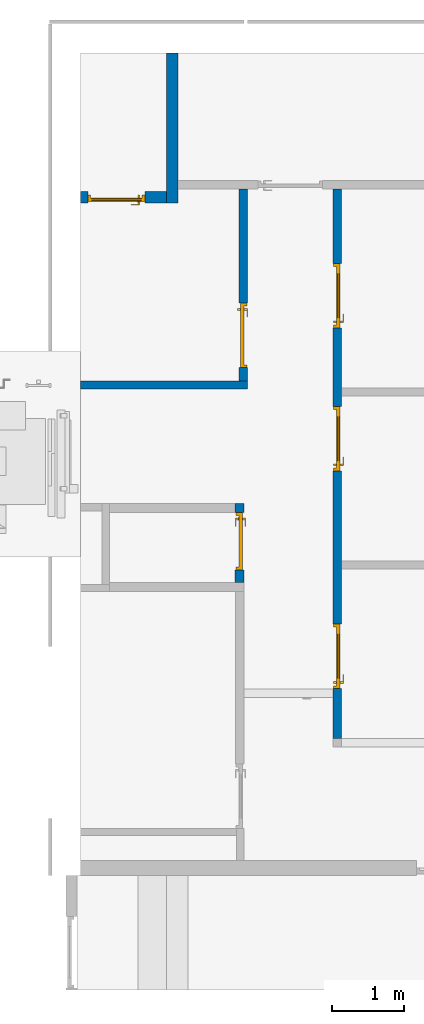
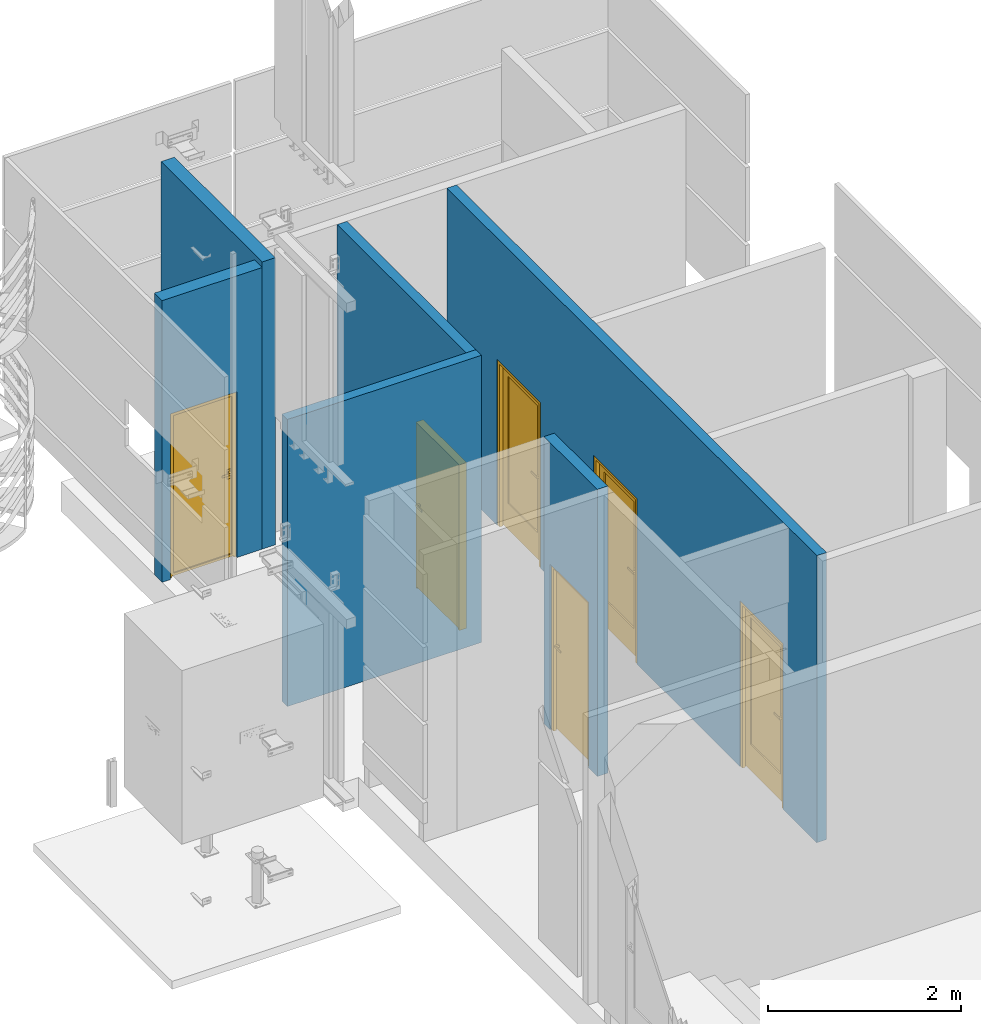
# One storey, part 2 of 15: 6 doors, 6 walls, 8 openings.
"""IFC2X3 building model written with IfcOpenShell, lengths in millimetres."""

from ifc_helpers import new_model, entity, si_unit, converted_unit, derived_unit, direction, frame, frame_2d, origin, place, context, subcontext, project, spatial, rectangle, extrude, faceted_brep, source, transform, mapped, material, material_list, layer, layer_set, layer_usage, type_object, type_shapes, element, fill, save


model = new_model("IFC2X3")

# Units and contexts
model_context = context("Model", 3, precision=0.01, world=origin(), true_north=direction((6.12303176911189e-17, 1.0)))
body_context = subcontext(model_context, "Body", "Model", "MODEL_VIEW")
ifc_project = project(units=[si_unit("LENGTHUNIT", "METRE", prefix="MILLI"), si_unit("AREAUNIT", "SQUARE_METRE"), si_unit("VOLUMEUNIT", "CUBIC_METRE"), converted_unit("PLANEANGLEUNIT", "DEGREE", entity("IfcRatioMeasure", 0.0174532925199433), si_unit("PLANEANGLEUNIT", "RADIAN"), dimensions=[0, 0, 0, 0, 0, 0, 0]), si_unit("MASSUNIT", "GRAM", prefix="KILO"), derived_unit("MASSDENSITYUNIT", [(si_unit("MASSUNIT", "GRAM", prefix="KILO"), 1), (si_unit("LENGTHUNIT", "METRE"), -3)]), si_unit("TIMEUNIT", "SECOND"), si_unit("FREQUENCYUNIT", "HERTZ"), si_unit("THERMODYNAMICTEMPERATUREUNIT", "DEGREE_CELSIUS"), derived_unit("THERMALTRANSMITTANCEUNIT", [(si_unit("MASSUNIT", "GRAM", prefix="KILO"), 1), (si_unit("THERMODYNAMICTEMPERATUREUNIT", "KELVIN"), -1), (si_unit("TIMEUNIT", "SECOND"), -3)]), derived_unit("VOLUMETRICFLOWRATEUNIT", [(si_unit("LENGTHUNIT", "METRE"), 3), (si_unit("TIMEUNIT", "SECOND"), -1)]), si_unit("ELECTRICCURRENTUNIT", "AMPERE"), si_unit("ELECTRICVOLTAGEUNIT", "VOLT"), si_unit("POWERUNIT", "WATT"), si_unit("FORCEUNIT", "NEWTON", prefix="KILO"), si_unit("ILLUMINANCEUNIT", "LUX"), si_unit("LUMINOUSFLUXUNIT", "LUMEN"), si_unit("LUMINOUSINTENSITYUNIT", "CANDELA"), derived_unit("USERDEFINED", [(si_unit("MASSUNIT", "GRAM", prefix="KILO"), -1), (si_unit("LENGTHUNIT", "METRE"), -2), (si_unit("TIMEUNIT", "SECOND"), 3), (si_unit("LUMINOUSFLUXUNIT", "LUMEN"), 1)]), derived_unit("LINEARVELOCITYUNIT", [(si_unit("LENGTHUNIT", "METRE"), 1), (si_unit("TIMEUNIT", "SECOND"), -1)]), si_unit("PRESSUREUNIT", "PASCAL"), derived_unit("USERDEFINED", [(si_unit("LENGTHUNIT", "METRE"), -2), (si_unit("MASSUNIT", "GRAM", prefix="KILO"), 1), (si_unit("TIMEUNIT", "SECOND"), -2)])], contexts=[model_context])

# Site, building, storey
site_placement = place(None, frame((-151.875543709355, 2715.0, 0.0)))
site = spatial("IfcSite", under=ifc_project, at=site_placement, Name="Surface", CompositionType="ELEMENT")
building_placement = place(site_placement, origin())
building = spatial("IfcBuilding", under=site, at=building_placement, CompositionType="ELEMENT")
storey_placement = place(building_placement, frame((0.0, 0.0, -135.0)))
storey = spatial("IfcBuildingStorey", under=building, at=storey_placement, Name="uus 1 korrus", CompositionType="ELEMENT", Elevation=-134.99999999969)

# Wall, openings, doors
ifc_material_1 = material(Name="__Kips GN13_tava")
ifc_layer_1 = layer(ifc_material_1, 12.5)
ifc_layer_2 = layer(ifc_material_1, 12.5)
ifc_material_2 = material(Name="__Soojustus EPS")
ifc_layer_3 = layer(ifc_material_2, 66.0)
ifc_layer_4 = layer(ifc_material_1, 12.5)
ifc_layer_5 = layer(ifc_material_1, 12.5)
ifc_layer_set_1 = layer_set([ifc_layer_1, ifc_layer_2, ifc_layer_3, ifc_layer_4, ifc_layer_5], Name="Basic Wall:SS-3_Kipssein tava ruumide vahel")
ifc_layer_usage_1 = layer_usage(ifc_layer_set_1, "AXIS2", "NEGATIVE", 58.0)
wall_type_1 = type_object("IfcWallType", Name="Basic Wall:SS-3_Kipssein tava ruumide vahel", PredefinedType="STANDARD", material=ifc_layer_set_1)
wall_1_placement = place(storey_placement, frame((35588.8324752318, 16726.0448732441, 0.0), z_axis=(0.0, 0.0, 1.0), x_axis=(0.0, 1.0, 0.0)))
wall_1 = element("IfcWallStandardCase", 1, at=wall_1_placement, inside=storey, type_object=wall_type_1, material=ifc_layer_usage_1, Name="Basic Wall:SS-3_Kipssein tava ruumide vahel", ObjectType="Basic Wall:SS-3_Kipssein tava ruumide vahel", context=body_context, shape_type="SweptSolid", body=[
    extrude(rectangle(XDim=7683.94136096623, YDim=116.0, at=frame_2d((3841.97068048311, 1.61648472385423e-12), x_axis=(-1.0, 0.0))), origin(), (0.0, 0.0, 1.0), 3640.0),
])
opening_1_placement = place(wall_1_placement, origin())
element("IfcOpeningElement", 2, at=opening_1_placement, cuts=wall_1, Name="Basic Wall:SS-3_Kipssein tava ruumide vahel", ObjectType="Opening", context=body_context, shape_type="SweptSolid", body=[
    extrude(rectangle(XDim=2099.99999999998, YDim=116.0, at=frame_2d((0.0, 1.13686837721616e-13), x_axis=(0.0, 1.0))), frame((634.573009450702, 58.0, 1050.0), z_axis=(0.0, 1.0, 0.0), x_axis=(1.0, 0.0, 0.0)), (0.0, 0.0, 1.0), 1250.0),
])
opening_2_placement = place(wall_1_placement, origin())
element("IfcOpeningElement", 3, at=opening_2_placement, cuts=wall_1, Name="Basic Wall:SS-3_Kipssein tava ruumide vahel", ObjectType="Opening", context=body_context, shape_type="SweptSolid", body=[
    extrude(rectangle(XDim=599.999999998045, YDim=116.0, at=frame_2d((0.0, -1.4210854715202e-13), x_axis=(0.0, 1.0))), frame((634.573009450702, 58.0, 2400.0), z_axis=(0.0, 1.0, 0.0), x_axis=(1.0, 0.0, 0.0)), (0.0, 0.0, 1.0), 1250.0),
])
opening_3_placement = place(wall_1_placement, frame((4638.36583075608, 58.0, 0.0)))
opening_3 = element("IfcOpeningElement", 4, at=opening_3_placement, cuts=wall_1, Name="Ühepoolsed:SU-02:1", ObjectType="Opening", context=body_context, shape_type="SweptSolid", body=[
    extrude(rectangle(XDim=2099.99999999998, YDim=900.0, at=frame_2d((1049.99999999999, 450.000000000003), x_axis=(1.0, 0.0))), frame((0.0, 0.0, 0.0), z_axis=(0.0, -1.0, 0.0), x_axis=(0.0, 0.0, 1.0)), (0.0, 0.0, 1.0), 116.0),
])
opening_4_placement = place(wall_1_placement, frame((6638.36583075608, 58.0, 0.0)))
opening_4 = element("IfcOpeningElement", 5, at=opening_4_placement, cuts=wall_1, Name="Ühepoolsed:SU-02:1", ObjectType="Opening", context=body_context, shape_type="SweptSolid", body=[
    extrude(rectangle(XDim=2099.99999999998, YDim=900.0, at=frame_2d((1049.99999999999, 450.0), x_axis=(1.0, 0.0))), frame((0.0, 0.0, 0.0), z_axis=(0.0, -1.0, 0.0), x_axis=(0.0, 0.0, 1.0)), (0.0, 0.0, 1.0), 116.0),
])
opening_5_placement = place(wall_1_placement, frame((1597.93478386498, 58.0, 0.0)))
opening_5 = element("IfcOpeningElement", 6, at=opening_5_placement, cuts=wall_1, Name="Ühepoolsed:SU-02:1", ObjectType="Opening", context=body_context, shape_type="SweptSolid", body=[
    extrude(rectangle(XDim=2099.99999999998, YDim=900.0, at=frame_2d((1049.99999999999, 450.000000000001), x_axis=(1.0, 0.0))), frame((0.0, 0.0, 0.0), z_axis=(0.0, -1.0, 0.0), x_axis=(0.0, 0.0, 1.0)), (0.0, 0.0, 1.0), 116.0),
])
ifc_material_3 = material(Name="_Alumiiniumprofiil - must")
ifc_material_4 = material(Name="__Uks_hele tamm")
ifc_material_5 = material(Name="Glass")
ifc_material_list_1 = material_list([ifc_material_3, ifc_material_4, ifc_material_5])
ifc_material_list_2 = material_list([ifc_material_3, ifc_material_4, ifc_material_5])
door_style_1 = type_object("IfcDoorStyle", Name="SU-02", ConstructionType="NOTDEFINED", OperationType="FOLDING_TO_LEFT", ParameterTakesPrecedence=False, Sizeable=False, material=ifc_material_list_2)
shared_shape_1 = source(origin(), body_context, "Body", "Brep", [
    faceted_brep([(800.0, 6.0, 1112.5), (705.0, 6.0, 1112.5), (705.0, 1.0, 1112.5), (825.0, 1.0, 1112.5), (825.0, 44.0, 1112.5), (800.0, 44.0, 1112.5), (800.0, 6.0, 1087.5), (800.0, 44.0, 1087.5), (825.0, 44.0, 1087.5), (825.0, 1.0, 1087.5), (705.0, 1.0, 1087.5), (705.0, 6.0, 1087.5)], [[[0, 1, 2, 3, 4, 5]], [[6, 7, 8, 9, 10, 11]], [[5, 7, 6, 0]], [[4, 8, 7, 5]], [[3, 9, 8, 4]], [[2, 10, 9, 3]], [[1, 11, 10, 2]], [[0, 6, 11, 1]]]),
    faceted_brep([(787.500000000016, 44.0, 1137.5), (837.500000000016, 44.0, 1137.5), (837.500000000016, 46.0, 1137.5), (787.500000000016, 46.0, 1137.5), (787.500000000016, 44.0, 1017.5), (787.500000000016, 46.0, 1017.5), (837.500000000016, 46.0, 1017.5), (837.500000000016, 44.0, 1017.5)], [[[0, 1, 2, 3]], [[4, 5, 6, 7]], [[3, 5, 4, 0]], [[2, 6, 5, 3]], [[1, 7, 6, 2]], [[0, 4, 7, 1]]]),
    faceted_brep([(800.0, 136.0, 1112.5), (800.0, 98.0, 1112.5), (825.0, 98.0, 1112.5), (825.0, 141.0, 1112.5), (705.0, 141.0, 1112.5), (705.0, 136.0, 1112.5), (800.0, 136.0, 1087.5), (705.0, 136.0, 1087.5), (705.0, 141.0, 1087.5), (825.0, 141.0, 1087.5), (825.0, 98.0, 1087.5), (800.0, 98.0, 1087.5)], [[[0, 1, 2, 3, 4, 5]], [[6, 7, 8, 9, 10, 11]], [[1, 0, 6, 11]], [[2, 1, 11, 10]], [[3, 2, 10, 9]], [[4, 3, 9, 8]], [[5, 4, 8, 7]], [[0, 5, 7, 6]]]),
    faceted_brep([(787.500000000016, 98.0, 1137.5), (787.500000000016, 96.0, 1137.5), (837.500000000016, 96.0, 1137.5), (837.500000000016, 98.0, 1137.5), (787.500000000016, 98.0, 1017.5), (837.500000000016, 98.0, 1017.5), (837.500000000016, 96.0, 1017.5), (787.500000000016, 96.0, 1017.5)], [[[0, 1, 2, 3]], [[4, 5, 6, 7]], [[1, 0, 4, 7]], [[2, 1, 7, 6]], [[3, 2, 6, 5]], [[0, 3, 5, 4]]]),
    faceted_brep([(0.0, 6.0, 0.0), (0.0, 96.0, 0.0), (25.0, 96.0, 0.0), (25.0, 46.0, 0.0), (40.0, 46.0, 0.0), (40.0, 6.0, 0.0), (40.0, 6.0, 2060.0), (860.0, 6.0, 2060.0), (860.0, 6.0, 0.0), (900.0, 6.0, 0.0), (900.0, 6.0, 2100.0), (0.0, 6.0, 2100.0), (40.0, 46.0, 2060.0), (25.0, 46.0, 2075.0), (875.0, 46.0, 2075.0), (875.0, 46.0, 0.0), (860.0, 46.0, 0.0), (860.0, 46.0, 2060.0), (25.0, 96.0, 2075.0), (0.0, 96.0, 2100.0), (900.0, 96.0, 2100.0), (900.0, 96.0, 0.0), (875.0, 96.0, 0.0), (875.0, 96.0, 2075.0)], [[[0, 1, 2, 3, 4, 5]], [[5, 6, 7, 8, 9, 10, 11, 0]], [[4, 12, 6, 5]], [[3, 13, 14, 15, 16, 17, 12, 4]], [[2, 18, 13, 3]], [[1, 19, 20, 21, 22, 23, 18, 2]], [[0, 11, 19, 1]], [[9, 21, 20, 10]], [[8, 16, 15, 22, 21, 9]], [[7, 17, 16, 8]], [[14, 23, 22, 15]], [[6, 12, 17, 7]], [[13, 18, 23, 14]], [[10, 20, 19, 11]]]),
    faceted_brep([(140.0, 61.0, 350.0), (760.0, 61.0, 350.0), (760.0, 61.0, 1960.0), (140.0, 61.0, 1960.0), (140.0, 81.0, 350.0), (140.0, 81.0, 1960.0), (760.0, 81.0, 1960.0), (760.0, 81.0, 350.0)], [[[0, 1, 2, 3]], [[4, 5, 6, 7]], [[3, 5, 4, 0]], [[2, 6, 5, 3]], [[1, 7, 6, 2]], [[0, 4, 7, 1]]]),
    faceted_brep([(25.0, 46.0, 20.0), (875.0, 46.0, 20.0), (875.0, 46.0, 2075.0), (25.0, 46.0, 2075.0), (760.0, 46.0, 350.0), (140.0, 46.0, 350.0), (140.0, 46.0, 1960.0), (760.0, 46.0, 1960.0), (25.0, 96.0, 20.0), (25.0, 96.0, 2075.0), (875.0, 96.0, 2075.0), (875.0, 96.0, 20.0), (760.0, 96.0, 1960.0), (140.0, 96.0, 1960.0), (140.0, 96.0, 350.0), (760.0, 96.0, 350.0)], [[[0, 1, 2, 3], [4, 5, 6, 7]], [[8, 9, 10, 11], [12, 13, 14, 15]], [[3, 9, 8, 0]], [[2, 10, 9, 3]], [[1, 11, 10, 2]], [[0, 8, 11, 1]], [[12, 15, 4, 7]], [[15, 14, 5, 4]], [[14, 13, 6, 5]], [[7, 6, 13, 12]]]),
])
type_shapes(door_style_1, [shared_shape_1])
door_1_placement = place(opening_3_placement, frame((0.0, 0.0, 0.0), z_axis=(0.0, 0.0, 1.0), x_axis=(-1.0, 0.0, 0.0)))
door_1 = element("IfcDoor", 7, at=door_1_placement, inside=storey, type_object=door_style_1, material=ifc_material_list_1, Name="Ühepoolsed:SU-02", ObjectType="SU-02", OverallHeight=2099.99999999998, OverallWidth=900.000000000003, context=body_context, shape_type="MappedRepresentation", body=[
    mapped(shared_shape_1, transform((0.0, 0.0, 0.0), scale=1.0)),
])
fill(opening_3, door_1)
ifc_material_list_3 = material_list([ifc_material_3, ifc_material_4, ifc_material_5])
door_2_placement = place(opening_4_placement, frame((0.0, 0.0, 0.0), z_axis=(0.0, 0.0, 1.0), x_axis=(-1.0, 0.0, 0.0)))
door_2 = element("IfcDoor", 8, at=door_2_placement, inside=storey, type_object=door_style_1, material=ifc_material_list_3, Name="Ühepoolsed:SU-02", ObjectType="SU-02", OverallHeight=2099.99999999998, OverallWidth=899.999999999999, context=body_context, shape_type="MappedRepresentation", body=[
    mapped(shared_shape_1, transform((0.0, 0.0, 0.0), scale=1.0)),
])
fill(opening_4, door_2)
ifc_material_list_4 = material_list([ifc_material_3, ifc_material_4, ifc_material_5])
door_3_placement = place(opening_5_placement, frame((0.0, 0.0, 0.0), z_axis=(0.0, 0.0, 1.0), x_axis=(-1.0, 0.0, 0.0)))
door_3 = element("IfcDoor", 9, at=door_3_placement, inside=storey, type_object=door_style_1, material=ifc_material_list_4, Name="Ühepoolsed:SU-02", ObjectType="SU-02", OverallHeight=2099.99999999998, OverallWidth=900.000000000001, context=body_context, shape_type="MappedRepresentation", body=[
    mapped(shared_shape_1, transform((0.0, 0.0, 0.0), scale=1.0)),
])
fill(opening_5, door_3)

# Wall
ifc_layer_usage_2 = layer_usage(ifc_layer_set_1, "AXIS2", "NEGATIVE", 58.0)
wall_2_placement = place(storey_placement, frame((34331.0797239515, 21667.9258834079, 0.0), z_axis=(0.0, 0.0, 1.0), x_axis=(-1.0, 0.0, 0.0)))
element("IfcWallStandardCase", 10, at=wall_2_placement, inside=storey, type_object=wall_type_1, material=ifc_layer_usage_2, Name="Basic Wall:SS-3_Kipssein tava ruumide vahel", ObjectType="Basic Wall:SS-3_Kipssein tava ruumide vahel", context=body_context, shape_type="SweptSolid", body=[
    extrude(rectangle(XDim=2329.46345575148, YDim=116.0, at=frame_2d((1164.73172787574, 1.36779476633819e-12), x_axis=(-1.0, 0.0))), origin(), (0.0, 0.0, 1.0), 3640.0),
])

# Wall, opening, door
ifc_layer_usage_3 = layer_usage(ifc_layer_set_1, "AXIS2", "NEGATIVE", 58.0)
wall_3_placement = place(storey_placement, frame((34273.0797239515, 21725.9258834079, 0.0), z_axis=(0.0, 0.0, 1.0), x_axis=(0.0, 1.0, 0.0)))
wall_3 = element("IfcWallStandardCase", 11, at=wall_3_placement, inside=storey, type_object=wall_type_1, material=ifc_layer_usage_3, Name="Basic Wall:SS-3_Kipssein tava ruumide vahel", ObjectType="Basic Wall:SS-3_Kipssein tava ruumide vahel", context=body_context, shape_type="SweptSolid", body=[
    extrude(rectangle(XDim=2684.06035080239, YDim=116.0, at=frame_2d((1342.03017540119, -8.88178419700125e-14), x_axis=(-1.0, 0.0))), origin(), (0.0, 0.0, 1.0), 3640.0),
])
opening_6_placement = place(wall_3_placement, frame((184.307162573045, -58.0, 0.0)))
opening_6 = element("IfcOpeningElement", 12, at=opening_6_placement, cuts=wall_3, Name="Ühepoolsed:SU-06:1", ObjectType="Opening", context=body_context, shape_type="SweptSolid", body=[
    extrude(rectangle(XDim=2099.99999999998, YDim=900.0, at=frame_2d((1049.99999999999, 450.000000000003), x_axis=(1.0, 0.0))), frame((0.0, 0.0, 0.0), z_axis=(0.0, 1.0, 0.0), x_axis=(0.0, 0.0, 1.0)), (0.0, 0.0, 1.0), 116.0),
])
ifc_material_list_5 = material_list([ifc_material_3, ifc_material_4])
ifc_material_list_6 = material_list([ifc_material_3, ifc_material_4])
door_style_2 = type_object("IfcDoorStyle", Name="SU-06", ConstructionType="NOTDEFINED", OperationType="FOLDING_TO_LEFT", ParameterTakesPrecedence=False, Sizeable=False, material=ifc_material_list_6)
shared_shape_2 = source(origin(), body_context, "Body", "Brep", [
    faceted_brep([(800.0, 6.0, 1112.5), (705.0, 6.0, 1112.5), (705.0, 1.0, 1112.5), (825.0, 1.0, 1112.5), (825.0, 44.0, 1112.5), (800.0, 44.0, 1112.5), (800.0, 6.0, 1087.5), (800.0, 44.0, 1087.5), (825.0, 44.0, 1087.5), (825.0, 1.0, 1087.5), (705.0, 1.0, 1087.5), (705.0, 6.0, 1087.5)], [[[0, 1, 2, 3, 4, 5]], [[6, 7, 8, 9, 10, 11]], [[5, 7, 6, 0]], [[4, 8, 7, 5]], [[3, 9, 8, 4]], [[2, 10, 9, 3]], [[1, 11, 10, 2]], [[0, 6, 11, 1]]]),
    faceted_brep([(787.500000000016, 44.0, 1137.5), (837.500000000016, 44.0, 1137.5), (837.500000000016, 46.0, 1137.5), (787.500000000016, 46.0, 1137.5), (787.500000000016, 44.0, 1017.5), (787.500000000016, 46.0, 1017.5), (837.500000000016, 46.0, 1017.5), (837.500000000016, 44.0, 1017.5)], [[[0, 1, 2, 3]], [[4, 5, 6, 7]], [[3, 5, 4, 0]], [[2, 6, 5, 3]], [[1, 7, 6, 2]], [[0, 4, 7, 1]]]),
    faceted_brep([(800.0, 136.0, 1112.5), (800.0, 98.0, 1112.5), (825.0, 98.0, 1112.5), (825.0, 141.0, 1112.5), (705.0, 141.0, 1112.5), (705.0, 136.0, 1112.5), (800.0, 136.0, 1087.5), (705.0, 136.0, 1087.5), (705.0, 141.0, 1087.5), (825.0, 141.0, 1087.5), (825.0, 98.0, 1087.5), (800.0, 98.0, 1087.5)], [[[0, 1, 2, 3, 4, 5]], [[6, 7, 8, 9, 10, 11]], [[1, 0, 6, 11]], [[2, 1, 11, 10]], [[3, 2, 10, 9]], [[4, 3, 9, 8]], [[5, 4, 8, 7]], [[0, 5, 7, 6]]]),
    faceted_brep([(787.500000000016, 98.0, 1137.5), (787.500000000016, 96.0, 1137.5), (837.500000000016, 96.0, 1137.5), (837.500000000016, 98.0, 1137.5), (787.500000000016, 98.0, 1017.5), (837.500000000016, 98.0, 1017.5), (837.500000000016, 96.0, 1017.5), (787.500000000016, 96.0, 1017.5)], [[[0, 1, 2, 3]], [[4, 5, 6, 7]], [[1, 0, 4, 7]], [[2, 1, 7, 6]], [[3, 2, 6, 5]], [[0, 3, 5, 4]]]),
    faceted_brep([(0.0, 6.0, 0.0), (0.0, 96.0, 0.0), (25.0, 96.0, 0.0), (25.0, 46.0, 0.0), (40.0, 46.0, 0.0), (40.0, 6.0, 0.0), (40.0, 6.0, 2060.0), (860.0, 6.0, 2060.0), (860.0, 6.0, 0.0), (900.0, 6.0, 0.0), (900.0, 6.0, 2100.0), (0.0, 6.0, 2100.0), (40.0, 46.0, 2060.0), (25.0, 46.0, 2075.0), (875.0, 46.0, 2075.0), (875.0, 46.0, 0.0), (860.0, 46.0, 0.0), (860.0, 46.0, 2060.0), (25.0, 96.0, 2075.0), (0.0, 96.0, 2100.0), (900.0, 96.0, 2100.0), (900.0, 96.0, 0.0), (875.0, 96.0, 0.0), (875.0, 96.0, 2075.0)], [[[0, 1, 2, 3, 4, 5]], [[5, 6, 7, 8, 9, 10, 11, 0]], [[4, 12, 6, 5]], [[3, 13, 14, 15, 16, 17, 12, 4]], [[2, 18, 13, 3]], [[1, 19, 20, 21, 22, 23, 18, 2]], [[0, 11, 19, 1]], [[9, 21, 20, 10]], [[8, 16, 15, 22, 21, 9]], [[7, 17, 16, 8]], [[14, 23, 22, 15]], [[6, 12, 17, 7]], [[13, 18, 23, 14]], [[10, 20, 19, 11]]]),
    faceted_brep([(875.0, 46.0, 2075.0), (25.0, 46.0, 2075.0), (25.0, 46.0, 20.0), (875.0, 46.0, 20.0), (875.0, 96.0, 2075.0), (875.0, 96.0, 20.0), (25.0, 96.0, 20.0), (25.0, 96.0, 2075.0)], [[[0, 1, 2, 3]], [[4, 5, 6, 7]], [[3, 5, 4, 0]], [[2, 6, 5, 3]], [[1, 7, 6, 2]], [[0, 4, 7, 1]]]),
])
type_shapes(door_style_2, [shared_shape_2])
door_4_placement = place(opening_6_placement, origin())
door_4 = element("IfcDoor", 13, at=door_4_placement, inside=storey, type_object=door_style_2, material=ifc_material_list_5, Name="Ühepoolsed:SU-06", ObjectType="SU-06", OverallHeight=2099.99999999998, OverallWidth=900.000000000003, context=body_context, shape_type="MappedRepresentation", body=[
    mapped(shared_shape_2, transform((0.0, 0.0, 0.0), scale=1.0)),
])
fill(opening_6, door_4)

ifc_layer_6 = layer(ifc_material_1, 12.5)
ifc_layer_7 = layer(ifc_material_1, 12.5)
ifc_layer_8 = layer(ifc_material_2, 66.0)
ifc_material_6 = material(Name="__Kips GKB_niiskuskindel")
ifc_layer_9 = layer(ifc_material_6, 12.5)
ifc_layer_10 = layer(ifc_material_6, 12.5)
ifc_material_7 = material(Name="Keraamiline_plaat")
ifc_layer_11 = layer(ifc_material_7, 10.0)
ifc_layer_set_2 = layer_set([ifc_layer_6, ifc_layer_7, ifc_layer_8, ifc_layer_9, ifc_layer_10, ifc_layer_11], Name="Basic Wall:SS-4_Kipssein tava ja niiske ruumi vahel")
ifc_layer_usage_4 = layer_usage(ifc_layer_set_2, "AXIS2", "POSITIVE", -63.0)
wall_type_2 = type_object("IfcWallType", Name="Basic Wall:SS-4_Kipssein tava ja niiske ruumi vahel", PredefinedType="STANDARD", material=ifc_layer_set_2)
wall_4_placement = place(storey_placement, frame((34218.3085887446, 18903.9710030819, 0.0), z_axis=(0.0, 0.0, 1.0), x_axis=(0.0, 1.0, 0.0)))
wall_4 = element("IfcWallStandardCase", 14, at=wall_4_placement, inside=storey, type_object=wall_type_2, material=ifc_layer_usage_4, Name="Basic Wall:SS-4_Kipssein tava ja niiske ruumi vahel", ObjectType="Basic Wall:SS-4_Kipssein tava ja niiske ruumi vahel", context=body_context, shape_type="SweptSolid", body=[
    extrude(rectangle(XDim=1105.95488032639, YDim=125.999999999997, at=frame_2d((552.977440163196, -1.31095134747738e-12), x_axis=(-1.0, 0.0))), origin(), (0.0, 0.0, 1.0), 3640.0),
])
opening_7_placement = place(wall_4_placement, frame((979.954880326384, 63.0, 0.0)))
opening_7 = element("IfcOpeningElement", 15, at=opening_7_placement, cuts=wall_4, Name="Ühepoolsed:SU-05:1", ObjectType="Opening", context=body_context, shape_type="SweptSolid", body=[
    extrude(rectangle(XDim=2099.99999999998, YDim=800.0, at=frame_2d((1049.99999999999, 400.0), x_axis=(1.0, 0.0))), frame((0.0, 0.0, 0.0), z_axis=(0.0, -1.0, 0.0), x_axis=(0.0, 0.0, 1.0)), (0.0, 0.0, 1.0), 126.0),
])
ifc_material_list_7 = material_list([ifc_material_3, ifc_material_4])
ifc_material_list_8 = material_list([ifc_material_3, ifc_material_4])
door_style_3 = type_object("IfcDoorStyle", Name="SU-05", ConstructionType="NOTDEFINED", OperationType="FOLDING_TO_RIGHT", ParameterTakesPrecedence=False, Sizeable=False, material=ifc_material_list_8)
shared_shape_3 = source(origin(), body_context, "Body", "Brep", [
    faceted_brep([(100.0, 16.0, 1112.5), (100.0, 54.0, 1112.5), (75.0, 54.0, 1112.5), (75.0, 11.0, 1112.5), (195.0, 11.0, 1112.5), (195.0, 16.0, 1112.5), (100.0, 16.0, 1087.5), (195.0, 16.0, 1087.5), (195.0, 11.0, 1087.5), (75.0, 11.0, 1087.5), (75.0, 54.0, 1087.5), (100.0, 54.0, 1087.5)], [[[0, 1, 2, 3, 4, 5]], [[6, 7, 8, 9, 10, 11]], [[1, 0, 6, 11]], [[2, 1, 11, 10]], [[3, 2, 10, 9]], [[4, 3, 9, 8]], [[5, 4, 8, 7]], [[0, 5, 7, 6]]]),
    faceted_brep([(112.5, 54.0, 1137.5), (112.5, 56.0, 1137.5), (62.5000000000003, 56.0, 1137.5), (62.5000000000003, 54.0, 1137.5), (112.5, 54.0, 1017.5), (62.5000000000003, 54.0, 1017.5), (62.5000000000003, 56.0, 1017.5), (112.5, 56.0, 1017.5)], [[[0, 1, 2, 3]], [[4, 5, 6, 7]], [[1, 0, 4, 7]], [[2, 1, 7, 6]], [[3, 2, 6, 5]], [[0, 3, 5, 4]]]),
    faceted_brep([(100.0, 146.0, 1112.5), (195.0, 146.0, 1112.5), (195.0, 151.0, 1112.5), (75.0, 151.0, 1112.5), (75.0, 108.0, 1112.5), (100.0, 108.0, 1112.5), (100.0, 146.0, 1087.5), (100.0, 108.0, 1087.5), (75.0, 108.0, 1087.5), (75.0, 151.0, 1087.5), (195.0, 151.0, 1087.5), (195.0, 146.0, 1087.5)], [[[0, 1, 2, 3, 4, 5]], [[6, 7, 8, 9, 10, 11]], [[5, 7, 6, 0]], [[4, 8, 7, 5]], [[3, 9, 8, 4]], [[2, 10, 9, 3]], [[1, 11, 10, 2]], [[0, 6, 11, 1]]]),
    faceted_brep([(112.5, 108.0, 1137.5), (62.5000000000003, 108.0, 1137.5), (62.5000000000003, 106.0, 1137.5), (112.5, 106.0, 1137.5), (112.5, 108.0, 1017.5), (112.5, 106.0, 1017.5), (62.5000000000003, 106.0, 1017.5), (62.5000000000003, 108.0, 1017.5)], [[[0, 1, 2, 3]], [[4, 5, 6, 7]], [[3, 5, 4, 0]], [[2, 6, 5, 3]], [[1, 7, 6, 2]], [[0, 4, 7, 1]]]),
    faceted_brep([(800.0, 16.0, 0.0), (760.0, 16.0, 0.0), (760.0, 56.0, 0.0), (775.0, 56.0, 0.0), (775.0, 106.0, 0.0), (800.0, 106.0, 0.0), (800.0, 16.0, 2100.0), (0.0, 16.0, 2100.0), (0.0, 16.0, 0.0), (40.0, 16.0, 0.0), (40.0, 16.0, 2060.0), (760.0, 16.0, 2060.0), (760.0, 56.0, 2060.0), (40.0, 56.0, 2060.0), (40.0, 56.0, 0.0), (25.0, 56.0, 0.0), (25.0, 56.0, 2075.0), (775.0, 56.0, 2075.0), (775.0, 106.0, 2075.0), (25.0, 106.0, 2075.0), (25.0, 106.0, 0.0), (0.0, 106.0, 0.0), (0.0, 106.0, 2100.0), (800.0, 106.0, 2100.0)], [[[0, 1, 2, 3, 4, 5]], [[1, 0, 6, 7, 8, 9, 10, 11]], [[2, 1, 11, 12]], [[3, 2, 12, 13, 14, 15, 16, 17]], [[4, 3, 17, 18]], [[5, 4, 18, 19, 20, 21, 22, 23]], [[0, 5, 23, 6]], [[8, 7, 22, 21]], [[9, 8, 21, 20, 15, 14]], [[10, 9, 14, 13]], [[16, 15, 20, 19]], [[11, 10, 13, 12]], [[17, 16, 19, 18]], [[7, 6, 23, 22]]]),
    faceted_brep([(25.0, 56.0, 2075.0), (25.0, 56.0, 20.0), (775.0, 56.0, 20.0), (775.0, 56.0, 2075.0), (25.0, 106.0, 2075.0), (775.0, 106.0, 2075.0), (775.0, 106.0, 20.0), (25.0, 106.0, 20.0)], [[[0, 1, 2, 3]], [[4, 5, 6, 7]], [[1, 0, 4, 7]], [[2, 1, 7, 6]], [[3, 2, 6, 5]], [[0, 3, 5, 4]]]),
])
type_shapes(door_style_3, [shared_shape_3])
door_5_placement = place(opening_7_placement, frame((0.0, 0.0, 0.0), z_axis=(0.0, 0.0, 1.0), x_axis=(-1.0, 0.0, 0.0)))
door_5 = element("IfcDoor", 16, at=door_5_placement, inside=storey, type_object=door_style_3, material=ifc_material_list_7, Name="Ühepoolsed:SU-05", ObjectType="SU-05", OverallHeight=2099.99999999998, OverallWidth=800.0, context=body_context, shape_type="MappedRepresentation", body=[
    mapped(shared_shape_3, transform((0.0, 0.0, 0.0), scale=1.0)),
])
fill(opening_7, door_5)

# Wall
ifc_material_8 = material(Name="Bauroc")
ifc_layer_12 = layer(ifc_material_8, 150.0)
ifc_layer_13 = layer(ifc_material_7, 10.0)
ifc_layer_set_3 = layer_set([ifc_layer_12, ifc_layer_13], Name="Basic Wall:SS-8_Bauroc sein niiske ja tava ruumide vahel")
ifc_layer_usage_5 = layer_usage(ifc_layer_set_3, "AXIS2", "POSITIVE", -80.0)
wall_type_3 = type_object("IfcWallType", Name="Basic Wall:SS-8_Bauroc sein niiske ja tava ruumide vahel", PredefinedType="STANDARD", material=ifc_layer_set_3)
wall_5_placement = place(storey_placement, frame((33281.6162681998, 24210.2368019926, 0.0), z_axis=(0.0, 0.0, 1.0), x_axis=(0.0, 1.0, 0.0)))
element("IfcWallStandardCase", 17, at=wall_5_placement, inside=storey, type_object=wall_type_3, material=ifc_layer_usage_5, Name="Basic Wall:SS-8_Bauroc sein niiske ja tava ruumide vahel", ObjectType="Basic Wall:SS-8_Bauroc sein niiske ja tava ruumide vahel", context=body_context, shape_type="SweptSolid", body=[
    extrude(rectangle(XDim=2099.76322456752, YDim=159.999999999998, at=frame_2d((1049.88161228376, -5.40012479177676e-13), x_axis=(-1.0, 0.0))), origin(), (0.0, 0.0, 1.0), 3640.0),
])

# Wall, opening, door
ifc_layer_usage_6 = layer_usage(ifc_layer_set_3, "AXIS2", "NEGATIVE", 80.0)
wall_6_placement = place(storey_placement, frame((33201.6162681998, 24290.2368019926, 0.0), z_axis=(0.0, 0.0, 1.0), x_axis=(-1.0, 0.0, 0.0)))
wall_6 = element("IfcWallStandardCase", 18, at=wall_6_placement, inside=storey, type_object=wall_type_3, material=ifc_layer_usage_6, Name="Basic Wall:SS-8_Bauroc sein niiske ja tava ruumide vahel", ObjectType="Basic Wall:SS-8_Bauroc sein niiske ja tava ruumide vahel", context=body_context, shape_type="SweptSolid", body=[
    extrude(rectangle(XDim=1199.99999999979, YDim=159.999999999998, at=frame_2d((599.999999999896, 1.81898940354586e-12), x_axis=(-1.0, 0.0))), origin(), (0.0, 0.0, 1.0), 3570.0),
])
opening_8_placement = place(wall_6_placement, frame((300.0, -80.0, 0.0)))
opening_8 = element("IfcOpeningElement", 19, at=opening_8_placement, cuts=wall_6, Name="Ühepoolsed:SU-08:1", ObjectType="Opening", context=body_context, shape_type="SweptSolid", body=[
    extrude(rectangle(XDim=2099.99999999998, YDim=800.0, at=frame_2d((1049.99999999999, 400.0), x_axis=(1.0, 0.0))), frame((0.0, 0.0, 0.0), z_axis=(0.0, 1.0, 0.0), x_axis=(0.0, 0.0, 1.0)), (0.0, 0.0, 1.0), 160.0),
])
ifc_material_list_9 = material_list([ifc_material_3, ifc_material_4, ifc_material_5])
ifc_material_list_10 = material_list([ifc_material_3, ifc_material_4, ifc_material_5])
door_style_4 = type_object("IfcDoorStyle", Name="SU-08", ConstructionType="NOTDEFINED", OperationType="FOLDING_TO_LEFT", ParameterTakesPrecedence=False, Sizeable=False, material=ifc_material_list_10)
shared_shape_4 = source(origin(), body_context, "Body", "Brep", [
    faceted_brep([(100.0, 50.0, 1112.5), (100.0, 88.0, 1112.5), (75.0, 88.0, 1112.5), (75.0, 45.0, 1112.5), (195.0, 45.0, 1112.5), (195.0, 50.0, 1112.5), (100.0, 50.0, 1087.5), (195.0, 50.0, 1087.5), (195.0, 45.0, 1087.5), (75.0, 45.0, 1087.5), (75.0, 88.0, 1087.5), (100.0, 88.0, 1087.5)], [[[0, 1, 2, 3, 4, 5]], [[6, 7, 8, 9, 10, 11]], [[1, 0, 6, 11]], [[2, 1, 11, 10]], [[3, 2, 10, 9]], [[4, 3, 9, 8]], [[5, 4, 8, 7]], [[0, 5, 7, 6]]]),
    faceted_brep([(112.5, 88.0, 1137.5), (112.5, 90.0, 1137.5), (62.5000000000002, 90.0, 1137.5), (62.5000000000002, 88.0, 1137.5), (112.5, 88.0, 1017.5), (62.5000000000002, 88.0, 1017.5), (62.5000000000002, 90.0, 1017.5), (112.5, 90.0, 1017.5)], [[[0, 1, 2, 3]], [[4, 5, 6, 7]], [[1, 0, 4, 7]], [[2, 1, 7, 6]], [[3, 2, 6, 5]], [[0, 3, 5, 4]]]),
    faceted_brep([(100.0, 180.0, 1112.5), (195.0, 180.0, 1112.5), (195.0, 185.0, 1112.5), (75.0, 185.0, 1112.5), (75.0, 142.0, 1112.5), (100.0, 142.0, 1112.5), (100.0, 180.0, 1087.5), (100.0, 142.0, 1087.5), (75.0, 142.0, 1087.5), (75.0, 185.0, 1087.5), (195.0, 185.0, 1087.5), (195.0, 180.0, 1087.5)], [[[0, 1, 2, 3, 4, 5]], [[6, 7, 8, 9, 10, 11]], [[5, 7, 6, 0]], [[4, 8, 7, 5]], [[3, 9, 8, 4]], [[2, 10, 9, 3]], [[1, 11, 10, 2]], [[0, 6, 11, 1]]]),
    faceted_brep([(112.5, 142.0, 1137.5), (62.5000000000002, 142.0, 1137.5), (62.5000000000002, 140.0, 1137.5), (112.5, 140.0, 1137.5), (112.5, 142.0, 1017.5), (112.5, 140.0, 1017.5), (62.5000000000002, 140.0, 1017.5), (62.5000000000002, 142.0, 1017.5)], [[[0, 1, 2, 3]], [[4, 5, 6, 7]], [[3, 5, 4, 0]], [[2, 6, 5, 3]], [[1, 7, 6, 2]], [[0, 4, 7, 1]]]),
    faceted_brep([(800.0, 50.0, 0.0), (760.0, 50.0, 0.0), (760.0, 90.0, 0.0), (775.0, 90.0, 0.0), (775.0, 140.0, 0.0), (800.0, 140.0, 0.0), (800.0, 50.0, 2100.0), (0.0, 50.0, 2100.0), (0.0, 50.0, 0.0), (40.0, 50.0, 0.0), (40.0, 50.0, 2060.0), (760.0, 50.0, 2060.0), (760.0, 90.0, 2060.0), (40.0, 90.0, 2060.0), (40.0, 90.0, 0.0), (25.0, 90.0, 0.0), (25.0, 90.0, 2075.0), (775.0, 90.0, 2075.0), (775.0, 140.0, 2075.0), (25.0, 140.0, 2075.0), (25.0, 140.0, 0.0), (0.0, 140.0, 0.0), (0.0, 140.0, 2100.0), (800.0, 140.0, 2100.0)], [[[0, 1, 2, 3, 4, 5]], [[1, 0, 6, 7, 8, 9, 10, 11]], [[2, 1, 11, 12]], [[3, 2, 12, 13, 14, 15, 16, 17]], [[4, 3, 17, 18]], [[5, 4, 18, 19, 20, 21, 22, 23]], [[0, 5, 23, 6]], [[8, 7, 22, 21]], [[9, 8, 21, 20, 15, 14]], [[10, 9, 14, 13]], [[16, 15, 20, 19]], [[11, 10, 13, 12]], [[17, 16, 19, 18]], [[7, 6, 23, 22]]]),
    faceted_brep([(750.0, 105.0, 50.0), (750.0, 105.0, 2050.0), (50.0, 105.0, 2050.0), (50.0, 105.0, 50.0), (750.0, 125.0, 50.0), (50.0, 125.0, 50.0), (50.0, 125.0, 2050.0), (750.0, 125.0, 2050.0)], [[[0, 1, 2, 3]], [[4, 5, 6, 7]], [[1, 0, 4, 7]], [[2, 1, 7, 6]], [[3, 2, 6, 5]], [[0, 3, 5, 4]]]),
    faceted_brep([(775.0, 90.0, 20.0), (775.0, 90.0, 2075.0), (25.0, 90.0, 2075.0), (25.0, 90.0, 20.0), (50.0, 90.0, 50.0), (50.0, 90.0, 2050.0), (750.0, 90.0, 2050.0), (750.0, 90.0, 50.0), (775.0, 140.0, 20.0), (25.0, 140.0, 20.0), (25.0, 140.0, 2075.0), (775.0, 140.0, 2075.0), (50.0, 140.0, 2050.0), (50.0, 140.0, 50.0), (750.0, 140.0, 50.0), (750.0, 140.0, 2050.0)], [[[0, 1, 2, 3], [4, 5, 6, 7]], [[8, 9, 10, 11], [12, 13, 14, 15]], [[1, 0, 8, 11]], [[2, 1, 11, 10]], [[3, 2, 10, 9]], [[0, 3, 9, 8]], [[12, 5, 4, 13]], [[13, 4, 7, 14]], [[14, 7, 6, 15]], [[5, 12, 15, 6]]]),
])
type_shapes(door_style_4, [shared_shape_4])
door_6_placement = place(opening_8_placement, origin())
door_6 = element("IfcDoor", 20, at=door_6_placement, inside=storey, type_object=door_style_4, material=ifc_material_list_9, Name="Ühepoolsed:SU-08", ObjectType="SU-08", OverallHeight=2099.99999999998, OverallWidth=800.0, context=body_context, shape_type="MappedRepresentation", body=[
    mapped(shared_shape_4, transform((0.0, 0.0, 0.0), scale=1.0)),
])
fill(opening_8, door_6)

save(model, "model.ifc")
